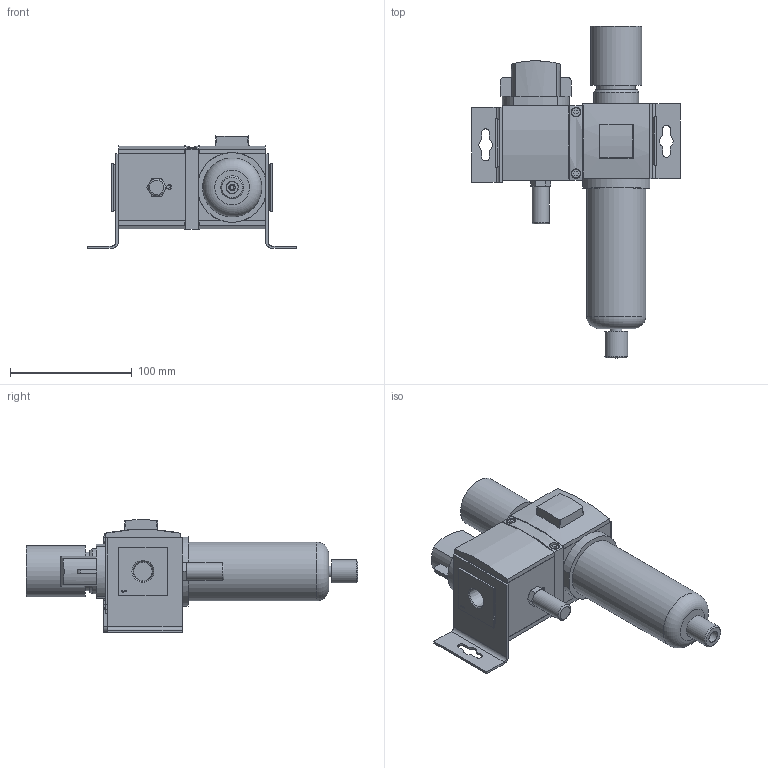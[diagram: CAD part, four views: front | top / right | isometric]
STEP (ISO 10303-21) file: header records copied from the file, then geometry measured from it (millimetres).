
FILE_DESCRIPTION( ( 'STEP AP214' ), '1' );
FILE_NAME( 'p:/temp/worker_272/temp/exporttempdir_3232_51_7II10/format_0/08532020-130245_gen_9082.stp', '2020-02-08T12:53:46', ( '' ), ( '' ), ' ', 'PARTsolutions', ' ' );
FILE_SCHEMA( ( 'AUTOMOTIVE_DESIGN { 1 0 10303 214 1 1 1 1 }' ) );
Length unit declared in the file: millimetre
Products named in the file (16): 08532020-130245_gen_9082; _433433014-F--0-A00129L; _433441-002-SV-0; _437742-001-100; _M2MN_652; _G652ASLA0A00A00_LS; _433073-014-F-KA0010AD0L; _433894-001; _440508-001-STANDARD; _433441-001-R-H; _438047-009; _433441-001-R-0; _440511-008-P; _440512-002-N; _8652ASLB0L00A00_LS; _8652ASLB0L00A00_RS
Assembly tree (16 placements, depth 2):
  08532020-130245_gen_9082
    _433433014-F--0-A00129L
    _433441-002-SV-0  x2
    _437742-001-100
    _M2MN_652
    _G652ASLA0A00A00_LS
    _433073-014-F-KA0010AD0L
    _433894-001
    _440508-001-STANDARD
    _433441-001-R-H
    _438047-009
    _433441-001-R-0
    _440511-008-P
    _440512-002-N
    _8652ASLB0L00A00_LS
    _8652ASLB0L00A00_RS
Bounding box: 171.3 x 272.52 x 92.51 mm (x, y, z)
Volume: 898007.6 mm3; surface area: 171208.7 mm2
Topology: 16 solids, 16 shells, 580 faces, 1407 edges, 912 vertices
Faces by surface type: plane 454, cylinder 78, cone 40, torus 8
Full cylindrical faces by diameter (mm): 2.8 x2, 5 x1, 5.6 x4, 6.3 x4, 7 x2, 7.8 x2, 8.25 x4, 9.728 x2, 10 x4, 14.224 x1, 15.1 x1, 19 x1, 31.6 x1, 37 x1, 41.845 x1, 48.5 x1
Entity records: 21511 total; most frequent: CARTESIAN_POINT 3323, DIRECTION 2677, ORIENTED_EDGE 2660, EDGE_CURVE 1330, LINE 1071, VECTOR 1071, VERTEX_POINT 901, AXIS2_PLACEMENT_3D 803
